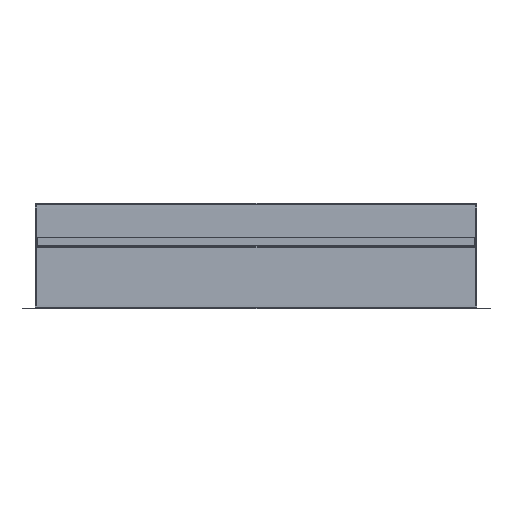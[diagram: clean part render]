
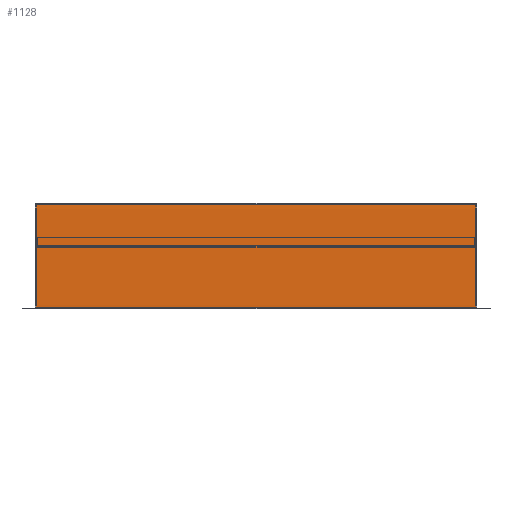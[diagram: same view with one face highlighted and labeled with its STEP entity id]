
A CAD part, left-side view. The second image highlights one B-rep face of the part: STEP entity #1128.
In plain terms, the highlighted planar face has unit normal (-1, 0, 0) as drawn and (1, 0, 0) by its records, which use the part's own axes.
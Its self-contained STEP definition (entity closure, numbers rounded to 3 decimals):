
#1128=ADVANCED_FACE('',(#2387),#19721,.T.);
#2387=FACE_OUTER_BOUND('',#3634,.T.);
#3634=EDGE_LOOP('',(#8705,#8706,#8707,#8708,#8709,#8710,#8711,#8712));
#8705=ORIENTED_EDGE('',*,*,#12444,.F.);
#8706=ORIENTED_EDGE('',*,*,#12443,.F.);
#8707=ORIENTED_EDGE('',*,*,#12440,.F.);
#8708=ORIENTED_EDGE('',*,*,#12437,.F.);
#8709=ORIENTED_EDGE('',*,*,#12442,.F.);
#8710=ORIENTED_EDGE('',*,*,#12441,.F.);
#8711=ORIENTED_EDGE('',*,*,#12439,.F.);
#8712=ORIENTED_EDGE('',*,*,#12438,.F.);
#12437=EDGE_CURVE('',#18354,#18429,#16290,.T.);
#12438=EDGE_CURVE('',#18430,#18431,#16291,.T.);
#12439=EDGE_CURVE('',#18431,#18374,#16292,.T.);
#12440=EDGE_CURVE('',#18429,#18447,#16293,.T.);
#12441=EDGE_CURVE('',#18374,#18375,#16294,.T.);
#12442=EDGE_CURVE('',#18375,#18354,#16295,.T.);
#12443=EDGE_CURVE('',#18447,#18448,#16296,.T.);
#12444=EDGE_CURVE('',#18448,#18430,#16297,.T.);
#16290=B_SPLINE_CURVE_WITH_KNOTS('',1,(#43623,#43624),.UNSPECIFIED.,.F.,
 .F.,(2,2),(-468.6,0.),.UNSPECIFIED.);
#16291=B_SPLINE_CURVE_WITH_KNOTS('',1,(#43625,#43626),.UNSPECIFIED.,.F.,
 .F.,(2,2),(0.,468.6),.UNSPECIFIED.);
#16292=B_SPLINE_CURVE_WITH_KNOTS('',1,(#43627,#43628),.UNSPECIFIED.,.F.,
 .F.,(2,2),(0.,3.),.UNSPECIFIED.);
#16293=B_SPLINE_CURVE_WITH_KNOTS('',1,(#43629,#43630),.UNSPECIFIED.,.F.,
 .F.,(2,2),(0.,5.),.UNSPECIFIED.);
#16294=B_SPLINE_CURVE_WITH_KNOTS('',1,(#43631,#43632),.UNSPECIFIED.,.F.,
 .F.,(2,2),(3.,104.5),.UNSPECIFIED.);
#16295=B_SPLINE_CURVE_WITH_KNOTS('',1,(#43633,#43634),.UNSPECIFIED.,.F.,
 .F.,(2,2),(104.5,109.5),.UNSPECIFIED.);
#16296=B_SPLINE_CURVE_WITH_KNOTS('',1,(#43635,#43636),.UNSPECIFIED.,.F.,
 .F.,(2,2),(5.,106.5),.UNSPECIFIED.);
#16297=B_SPLINE_CURVE_WITH_KNOTS('',1,(#43637,#43638),.UNSPECIFIED.,.F.,
 .F.,(2,2),(106.5,109.5),.UNSPECIFIED.);
#18354=VERTEX_POINT('',#43084);
#18374=VERTEX_POINT('',#43104);
#18375=VERTEX_POINT('',#43105);
#18429=VERTEX_POINT('',#43159);
#18430=VERTEX_POINT('',#43160);
#18431=VERTEX_POINT('',#43161);
#18447=VERTEX_POINT('',#43177);
#18448=VERTEX_POINT('',#43178);
#19721=PLANE('',#22780);
#22780=AXIS2_PLACEMENT_3D('',#42625,#25162,$);
#25162=DIRECTION('',(1.,0.,0.));
#42625=CARTESIAN_POINT('',(435.,10.755,-282.465));
#43084=CARTESIAN_POINT('',(435.,-1.5,234.3));
#43104=CARTESIAN_POINT('',(435.15,-108.,234.3));
#43105=CARTESIAN_POINT('',(435.15,-6.5,234.3));
#43159=CARTESIAN_POINT('',(435.,-1.5,-234.3));
#43160=CARTESIAN_POINT('',(435.,-111.,-234.3));
#43161=CARTESIAN_POINT('',(435.,-111.,234.3));
#43177=CARTESIAN_POINT('',(435.15,-6.5,-234.3));
#43178=CARTESIAN_POINT('',(435.15,-108.,-234.3));
#43623=CARTESIAN_POINT('',(435.,-1.5,234.3));
#43624=CARTESIAN_POINT('',(435.,-1.5,-234.3));
#43625=CARTESIAN_POINT('',(435.,-111.,-234.3));
#43626=CARTESIAN_POINT('',(435.,-111.,234.3));
#43627=CARTESIAN_POINT('',(435.,-111.,234.3));
#43628=CARTESIAN_POINT('',(435.15,-108.,234.3));
#43629=CARTESIAN_POINT('',(435.,-1.5,-234.3));
#43630=CARTESIAN_POINT('',(435.15,-6.5,-234.3));
#43631=CARTESIAN_POINT('',(435.15,-108.,234.3));
#43632=CARTESIAN_POINT('',(435.15,-6.5,234.3));
#43633=CARTESIAN_POINT('',(435.15,-6.5,234.3));
#43634=CARTESIAN_POINT('',(435.,-1.5,234.3));
#43635=CARTESIAN_POINT('',(435.15,-6.5,-234.3));
#43636=CARTESIAN_POINT('',(435.15,-108.,-234.3));
#43637=CARTESIAN_POINT('',(435.15,-108.,-234.3));
#43638=CARTESIAN_POINT('',(435.,-111.,-234.3));
